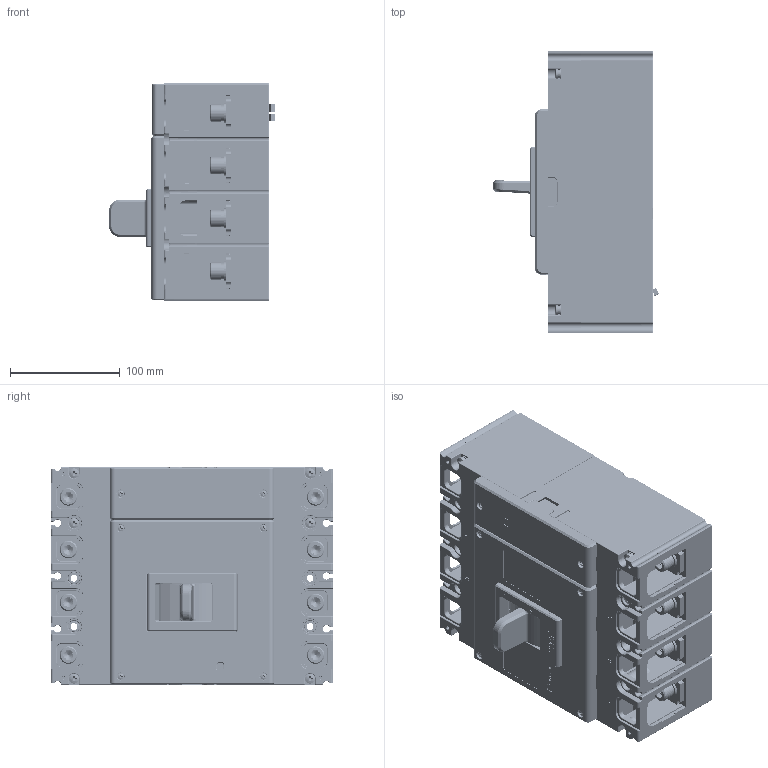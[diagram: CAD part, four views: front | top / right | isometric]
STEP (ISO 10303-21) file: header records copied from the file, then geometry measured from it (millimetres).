
FILE_DESCRIPTION((''),'2;1');
FILE_NAME('CDM3V-630F-4300-630A_ASM','2021-06-18T',('zhenjiang.nong'),(''),'PRO/ENGINEER BY PARAMETRIC TECHNOLOGY CORPORATION, 2015440','PRO/ENGINEER BY PARAMETRIC TECHNOLOGY CORPORATION, 2015440','');
FILE_SCHEMA(('CONFIG_CONTROL_DESIGN'));
Products named in the file (78): PRT0178; PRT0179; ASM0040_ASM; PRT0180; PRT0181; PRT0182; PRT0183; PRT0184; ASM0041_ASM; PRT0188; PRT0189; MANIFOLD_SOLID_BREP_154372; MANIFOLD_SOLID_BREP_154574; ASM0044_ASM; PRT0190; MANIFOLD_SOLID_BREP_155279; MANIFOLD_SOLID_BREP_155429; ASM0045_ASM; MANIFOLD_SOLID_BREP_156112; MANIFOLD_SOLID_BREP_156275; ASM0046_ASM; ASM0042_ASM; 5551072100_ASM_2_ASM; 8205068400_2; 8585064800_1; MANIFOLD_SOLID_BREP_157376; MANIFOLD_SOLID_BREP_157526; 85050244P02_2_ASM; 5DLX_551_719_ASM_1_ASM; 5DLX_551_718_ASM_1_ASM; PRT0230; PRT0231; PRT0232; ASM0052_ASM; PRT0233; 7090300401K_GB_T93_4_2; GB_T97_4-4_2; ASM0053_ASM; PRT0234; 85510339P02_2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
Assembly tree (160 placements, depth 7):
  CDM3V-630F-4300-630A_ASM
    2253026100_ASM_1_ASM
      5295009000_ASM_1_ASM
        ASM0040_ASM
          PRT0178
          PRT0179  x8
        PRT0180  x8
        ASM0041_ASM  x4
          PRT0181
          PRT0182
          PRT0183
          PRT0184
        5DLX_551_718_ASM_1_ASM
          ASM0042_ASM  x3
            PRT0188
            PRT0189
            ASM0044_ASM
              MANIFOLD_SOLID_BREP_154372
              MANIFOLD_SOLID_BREP_154574
            PRT0190
            ASM0045_ASM
              MANIFOLD_SOLID_BREP_155279
              MANIFOLD_SOLID_BREP_155429
            ASM0046_ASM
              MANIFOLD_SOLID_BREP_156112
              MANIFOLD_SOLID_BREP_156275
          5DLX_551_719_ASM_1_ASM
            5551072100_ASM_2_ASM
            8205068400_2
            8585064800_1
            85050244P02_2_ASM  x2
              MANIFOLD_SOLID_BREP_157376
              MANIFOLD_SOLID_BREP_157526
        ASM0052_ASM  x19
          PRT0230
          PRT0231
          PRT0232
        ASM0053_ASM  x4
          PRT0233
          7090300401K_GB_T93_4_2
          GB_T97_4-4_2
        PRT0234  x4
        5DLX_510_127_ASM_1_ASM
          8585064800_1
          85510339P02_2
          85050244P03_2_ASM  x2
            MANIFOLD_SOLID_BREP_299290
            MANIFOLD_SOLID_BREP_299440
      ASM0054_ASM  x8
        PRT0235
        PRT0236
        PRT0237
      PRT0243  x4
      PRT0244  x4
      ASM0056_ASM
        PRT0245
        PRT0246
        PRT0247
      PRT0248  x3
      PRT0249  x4
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Bounding box: 150.98 x 257 x 198 mm (x, y, z)
Volume: 1977972 mm3; surface area: 1003264.4 mm2
Topology: 250 solids, 348 shells, 12340 faces, 32037 edges, 20401 vertices
Faces by surface type: plane 6985, cylinder 3549, torus 663, cone 507, sphere 239, extrusion 221, bspline 176
Entity records: 297158 total; most frequent: CARTESIAN_POINT 69716, ORIENTED_EDGE 47658, DIRECTION 46655, EDGE_CURVE 23871, VECTOR 16561, LINE 16340, VERTEX_POINT 15339, AXIS2_PLACEMENT_3D 15047
